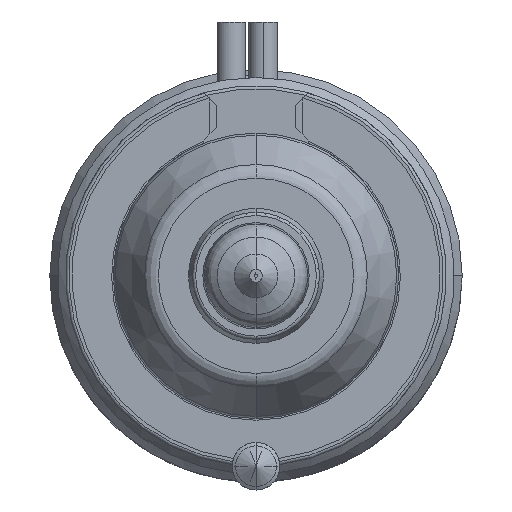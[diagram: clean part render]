
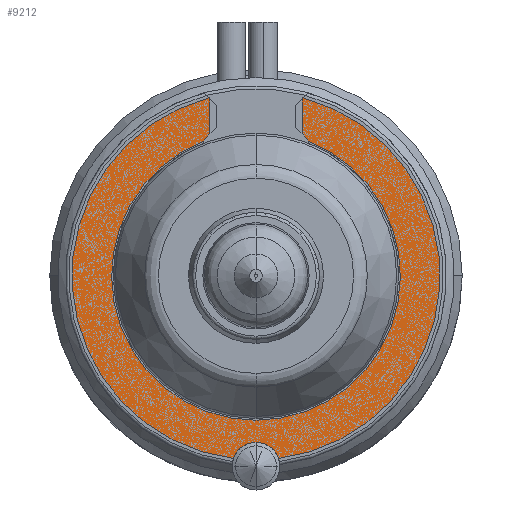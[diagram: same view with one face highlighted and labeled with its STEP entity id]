
A CAD part, front view. The second image highlights one B-rep face of the part: STEP entity #9212.
In plain terms, the highlighted planar face has unit normal (0, -1, 0).
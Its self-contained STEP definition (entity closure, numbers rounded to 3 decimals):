
#596=DIRECTION('',(0.707,0.,-0.707));
#597=VECTOR('',#596,0.092);
#598=CARTESIAN_POINT('',(-2.965,-22.,11.215));
#599=LINE('',#598,#597);
#1555=CARTESIAN_POINT('',(0.,-22.,6.2));
#1556=DIRECTION('',(0.,1.,0.));
#1557=DIRECTION('',(0.725,0.,0.689));
#1558=AXIS2_PLACEMENT_3D('',#1555,#1556,#1557);
#1570=CARTESIAN_POINT('',(0.,-22.,-12.));
#1571=DIRECTION('',(0.,1.,0.));
#1572=DIRECTION('',(-0.946,0.,0.325));
#1573=AXIS2_PLACEMENT_3D('',#1570,#1571,#1572);
#1589=CARTESIAN_POINT('',(0.,-22.,0.));
#1590=DIRECTION('',(0.,1.,0.));
#1591=DIRECTION('',(-0.122,0.,-0.992));
#1592=AXIS2_PLACEMENT_3D('',#1589,#1590,#1591);
#1601=CARTESIAN_POINT('',(0.,-22.,0.));
#1602=DIRECTION('',(0.,1.,0.));
#1603=DIRECTION('',(0.256,0.,0.967));
#1604=AXIS2_PLACEMENT_3D('',#1601,#1602,#1603);
#1617=DIRECTION('',(-0.707,0.,-0.707));
#1618=VECTOR('',#1617,0.092);
#1619=CARTESIAN_POINT('',(2.965,-22.,11.215));
#1620=LINE('',#1619,#1618);
#1625=DIRECTION('',(0.,0.,-1.));
#1626=VECTOR('',#1625,2.195);
#1627=CARTESIAN_POINT('',(2.9,-22.,11.15));
#1628=LINE('',#1627,#1626);
#1656=DIRECTION('',(0.,0.,1.));
#1657=VECTOR('',#1656,2.195);
#1658=CARTESIAN_POINT('',(-2.9,-22.,8.955));
#1659=LINE('',#1658,#1657);
#1691=CARTESIAN_POINT('',(0.,-22.,6.2));
#1692=DIRECTION('',(0.,1.,0.));
#1693=DIRECTION('',(-0.82,0.,0.572));
#1694=AXIS2_PLACEMENT_3D('',#1691,#1692,#1693);
#1706=CARTESIAN_POINT('',(0.,-22.,0.));
#1707=DIRECTION('',(0.,-1.,0.));
#1708=DIRECTION('',(-0.361,0.,0.933));
#1709=AXIS2_PLACEMENT_3D('',#1706,#1707,#1708);
#7398=CARTESIAN_POINT('',(2.965,-22.,11.215));
#7399=CARTESIAN_POINT('',(2.9,-22.,11.15));
#7400=VERTEX_POINT('',#7398);
#7401=VERTEX_POINT('',#7399);
#7406=CARTESIAN_POINT('',(-2.965,-22.,11.215));
#7407=CARTESIAN_POINT('',(-2.9,-22.,11.15));
#7408=VERTEX_POINT('',#7406);
#7409=VERTEX_POINT('',#7407);
#7444=CARTESIAN_POINT('',(2.9,-22.,8.955));
#7445=CARTESIAN_POINT('',(3.281,-22.,8.488));
#7446=VERTEX_POINT('',#7444);
#7447=VERTEX_POINT('',#7445);
#7448=CARTESIAN_POINT('',(-3.281,-22.,8.488));
#7449=CARTESIAN_POINT('',(-2.9,-22.,8.955));
#7450=VERTEX_POINT('',#7448);
#7451=VERTEX_POINT('',#7449);
#7593=CARTESIAN_POINT('',(-1.419,-22.,-11.513));
#7594=CARTESIAN_POINT('',(1.419,-22.,-11.513));
#7595=VERTEX_POINT('',#7593);
#7596=VERTEX_POINT('',#7594);
#9188=CARTESIAN_POINT('',(0.,-22.,0.));
#9189=DIRECTION('',(0.,-1.,0.));
#9190=DIRECTION('',(-1.,0.,0.));
#9191=AXIS2_PLACEMENT_3D('',#9188,#9189,#9190);
#9192=PLANE('',#9191);
#9193=ORIENTED_EDGE('',*,*,#8675,.F.);
#9195=ORIENTED_EDGE('',*,*,#9194,.T.);
#9196=ORIENTED_EDGE('',*,*,#8795,.T.);
#9198=ORIENTED_EDGE('',*,*,#9197,.F.);
#9200=ORIENTED_EDGE('',*,*,#9199,.F.);
#9202=ORIENTED_EDGE('',*,*,#9201,.T.);
#9203=ORIENTED_EDGE('',*,*,#9167,.F.);
#9205=ORIENTED_EDGE('',*,*,#9204,.F.);
#9207=ORIENTED_EDGE('',*,*,#9206,.F.);
#9209=ORIENTED_EDGE('',*,*,#9208,.T.);
#9210=EDGE_LOOP('',(#9193,#9195,#9196,#9198,#9200,#9202,#9203,#9205,#9207,
#9209));
#9211=FACE_OUTER_BOUND('',#9210,.F.);
#9212=ADVANCED_FACE('',(#9211),#9192,.T.);
#1559=CIRCLE('',#1558,4.);
#1574=CIRCLE('',#1573,1.5);
#1593=CIRCLE('',#1592,11.6);
#1605=CIRCLE('',#1604,11.6);
#1695=CIRCLE('',#1694,4.);
#1710=CIRCLE('',#1709,9.1);
#8675=EDGE_CURVE('',#7595,#7596,#1574,.T.);
#8795=EDGE_CURVE('',#7408,#7409,#599,.T.);
#9167=EDGE_CURVE('',#7446,#7447,#1559,.T.);
#9194=EDGE_CURVE('',#7595,#7408,#1593,.T.);
#9197=EDGE_CURVE('',#7451,#7409,#1659,.T.);
#9199=EDGE_CURVE('',#7450,#7451,#1695,.T.);
#9201=EDGE_CURVE('',#7450,#7447,#1710,.T.);
#9204=EDGE_CURVE('',#7401,#7446,#1628,.T.);
#9206=EDGE_CURVE('',#7400,#7401,#1620,.T.);
#9208=EDGE_CURVE('',#7400,#7596,#1605,.T.);
